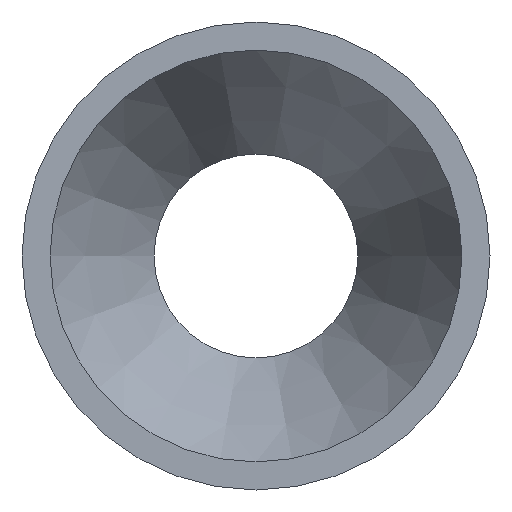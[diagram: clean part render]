
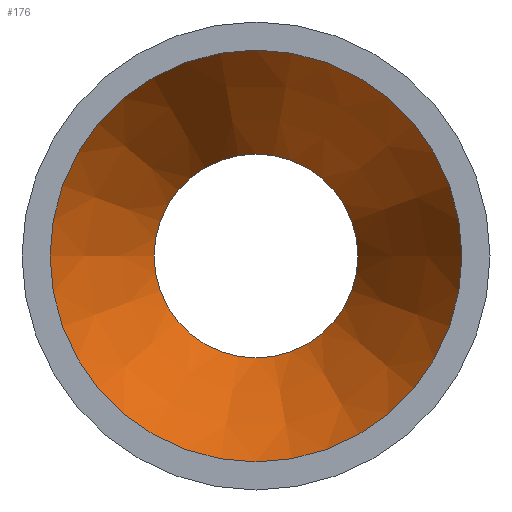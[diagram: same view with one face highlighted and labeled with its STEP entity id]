
A CAD part, left-side view. The second image highlights one B-rep face of the part: STEP entity #176.
In plain terms, the highlighted conical face has half-angle 26.565 degrees and reference radius 29.6 mm.
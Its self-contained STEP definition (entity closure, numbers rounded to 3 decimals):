
#128=CARTESIAN_POINT('',(123.725,19.6,0.));
#129=VERTEX_POINT('',#128);
#136=CARTESIAN_POINT('',(123.725,0.,0.));
#137=DIRECTION('',(1.,0.,0.));
#138=DIRECTION('',(0.,1.,0.));
#139=AXIS2_PLACEMENT_3D('',#136,#137,#138);
#140=CIRCLE('',#139,19.6);
#141=EDGE_CURVE('',#129,#129,#140,.T.);
#152=ORIENTED_EDGE('',*,*,#141,.T.);
#153=CARTESIAN_POINT('',(83.725,39.6,0.));
#154=VERTEX_POINT('',#153);
#155=CARTESIAN_POINT('',(103.725,29.6,0.));
#156=DIRECTION('',(0.894,-0.447,0.));
#157=VECTOR('',#156,29.6);
#158=LINE('',#155,#157);
#159=EDGE_CURVE('',#154,#129,#158,.T.);
#160=ORIENTED_EDGE('',*,*,#159,.F.);
#161=CARTESIAN_POINT('',(83.725,0.,0.));
#162=DIRECTION('',(1.,0.,0.));
#163=DIRECTION('',(0.,1.,0.));
#164=AXIS2_PLACEMENT_3D('',#161,#162,#163);
#165=CIRCLE('',#164,39.6);
#166=EDGE_CURVE('',#154,#154,#165,.T.);
#167=ORIENTED_EDGE('',*,*,#166,.F.);
#168=ORIENTED_EDGE('',*,*,#159,.T.);
#169=EDGE_LOOP('',(#152,#160,#167,#168));
#170=FACE_OUTER_BOUND('',#169,.T.);
#171=CARTESIAN_POINT('',(103.725,0.,0.));
#172=DIRECTION('',(-1.,0.,0.));
#173=DIRECTION('',(0.,1.,0.));
#174=AXIS2_PLACEMENT_3D('',#171,#172,#173);
#175=CONICAL_SURFACE('',#174,29.6,0.464);
#176=ADVANCED_FACE('',(#170),#175,.F.);
